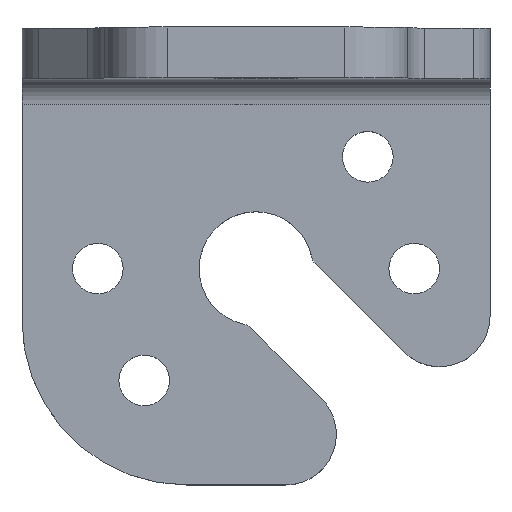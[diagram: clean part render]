
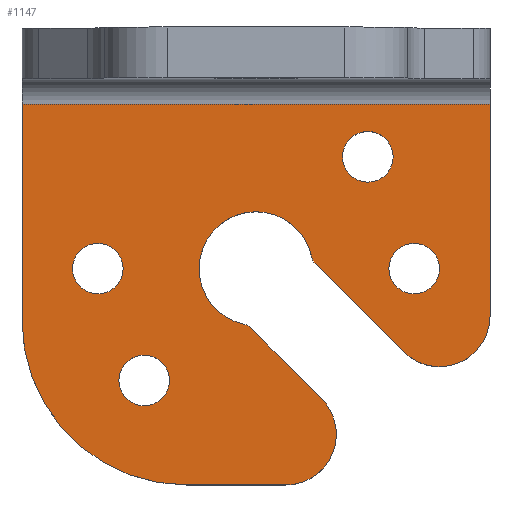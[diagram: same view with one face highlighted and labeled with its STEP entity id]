
A CAD part, top view. The second image highlights one B-rep face of the part: STEP entity #1147.
In plain terms, the highlighted planar face has unit normal (0, 0, 1).
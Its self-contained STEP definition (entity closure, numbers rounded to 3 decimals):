
#176=CARTESIAN_POINT('',(-12.5,0.,4.));
#177=DIRECTION('',(0.,0.,-1.));
#178=DIRECTION('',(1.,0.,0.));
#179=AXIS2_PLACEMENT_3D('',#176,#177,#178);
#184=CARTESIAN_POINT('',(-12.5,0.,4.));
#185=DIRECTION('',(0.,0.,-1.));
#186=DIRECTION('',(-1.,0.,0.));
#187=AXIS2_PLACEMENT_3D('',#184,#185,#186);
#192=CARTESIAN_POINT('',(8.839,8.839,4.));
#193=DIRECTION('',(0.,0.,-1.));
#194=DIRECTION('',(1.,0.,0.));
#195=AXIS2_PLACEMENT_3D('',#192,#193,#194);
#200=CARTESIAN_POINT('',(8.839,8.839,4.));
#201=DIRECTION('',(0.,0.,-1.));
#202=DIRECTION('',(-1.,0.,0.));
#203=AXIS2_PLACEMENT_3D('',#200,#201,#202);
#208=CARTESIAN_POINT('',(12.5,0.,4.));
#209=DIRECTION('',(0.,0.,-1.));
#210=DIRECTION('',(1.,0.,0.));
#211=AXIS2_PLACEMENT_3D('',#208,#209,#210);
#216=CARTESIAN_POINT('',(12.5,0.,4.));
#217=DIRECTION('',(0.,0.,-1.));
#218=DIRECTION('',(-1.,0.,0.));
#219=AXIS2_PLACEMENT_3D('',#216,#217,#218);
#224=CARTESIAN_POINT('',(-8.839,-8.839,4.));
#225=DIRECTION('',(0.,0.,-1.));
#226=DIRECTION('',(1.,0.,0.));
#227=AXIS2_PLACEMENT_3D('',#224,#225,#226);
#232=CARTESIAN_POINT('',(-8.839,-8.839,4.));
#233=DIRECTION('',(0.,0.,-1.));
#234=DIRECTION('',(-1.,0.,0.));
#235=AXIS2_PLACEMENT_3D('',#232,#233,#234);
#240=DIRECTION('',(1.,0.,0.));
#241=VECTOR('',#240,37.);
#242=CARTESIAN_POINT('',(-18.5,12.997,4.));
#243=LINE('',#242,#241);
#247=DIRECTION('',(0.,1.,0.));
#248=VECTOR('',#247,16.749);
#249=CARTESIAN_POINT('',(18.5,-3.752,4.));
#250=LINE('',#249,#248);
#254=CARTESIAN_POINT('',(14.5,-3.752,4.));
#255=DIRECTION('',(0.,0.,1.));
#256=DIRECTION('',(-0.707,-0.707,0.));
#257=AXIS2_PLACEMENT_3D('',#254,#255,#256);
#262=DIRECTION('',(0.707,-0.707,0.));
#263=VECTOR('',#262,9.89);
#264=CARTESIAN_POINT('',(4.678,0.412,4.));
#265=LINE('',#264,#263);
#269=CARTESIAN_POINT('',(5.385,1.119,4.));
#270=DIRECTION('',(0.,0.,1.));
#271=DIRECTION('',(-0.979,-0.203,0.));
#272=AXIS2_PLACEMENT_3D('',#269,#270,#271);
#277=CARTESIAN_POINT('',(0.,0.,4.));
#278=DIRECTION('',(0.,0.,-1.));
#279=DIRECTION('',(-0.204,-0.979,0.));
#280=AXIS2_PLACEMENT_3D('',#277,#278,#279);
#285=CARTESIAN_POINT('',(-1.121,-5.385,4.));
#286=DIRECTION('',(0.,0.,1.));
#287=DIRECTION('',(0.707,0.707,0.));
#288=AXIS2_PLACEMENT_3D('',#285,#286,#287);
#293=DIRECTION('',(-0.707,0.707,0.));
#294=VECTOR('',#293,7.908);
#295=CARTESIAN_POINT('',(5.178,-10.269,4.));
#296=LINE('',#295,#294);
#300=CARTESIAN_POINT('',(2.35,-13.098,4.));
#301=DIRECTION('',(0.,0.,1.));
#302=DIRECTION('',(0.,-1.,0.));
#303=AXIS2_PLACEMENT_3D('',#300,#301,#302);
#308=DIRECTION('',(1.,0.,0.));
#309=VECTOR('',#308,7.85);
#310=CARTESIAN_POINT('',(-5.5,-17.098,4.));
#311=LINE('',#310,#309);
#315=CARTESIAN_POINT('',(-5.5,-4.098,4.));
#316=DIRECTION('',(0.,0.,1.));
#317=DIRECTION('',(-1.,0.,0.));
#318=AXIS2_PLACEMENT_3D('',#315,#316,#317);
#323=DIRECTION('',(0.,-1.,0.));
#324=VECTOR('',#323,17.095);
#325=CARTESIAN_POINT('',(-18.5,12.997,4.));
#326=LINE('',#325,#324);
#894=CARTESIAN_POINT('',(-10.5,0.,4.));
#895=CARTESIAN_POINT('',(-14.5,0.,4.));
#896=VERTEX_POINT('',#894);
#897=VERTEX_POINT('',#895);
#898=CARTESIAN_POINT('',(10.839,8.839,4.));
#899=CARTESIAN_POINT('',(6.839,8.839,4.));
#900=VERTEX_POINT('',#898);
#901=VERTEX_POINT('',#899);
#902=CARTESIAN_POINT('',(14.5,0.,4.));
#903=CARTESIAN_POINT('',(10.5,0.,4.));
#904=VERTEX_POINT('',#902);
#905=VERTEX_POINT('',#903);
#906=CARTESIAN_POINT('',(-6.839,-8.839,4.));
#907=CARTESIAN_POINT('',(-10.839,-8.839,4.));
#908=VERTEX_POINT('',#906);
#909=VERTEX_POINT('',#907);
#910=CARTESIAN_POINT('',(-18.5,-4.098,4.));
#911=CARTESIAN_POINT('',(-5.5,-17.098,4.));
#912=VERTEX_POINT('',#910);
#913=VERTEX_POINT('',#911);
#914=CARTESIAN_POINT('',(2.35,-17.098,4.));
#915=VERTEX_POINT('',#914);
#916=CARTESIAN_POINT('',(5.178,-10.269,4.));
#917=VERTEX_POINT('',#916);
#918=CARTESIAN_POINT('',(-0.414,-4.677,4.));
#919=VERTEX_POINT('',#918);
#920=CARTESIAN_POINT('',(-0.917,-4.406,4.));
#921=VERTEX_POINT('',#920);
#922=CARTESIAN_POINT('',(4.406,0.916,4.));
#923=VERTEX_POINT('',#922);
#924=CARTESIAN_POINT('',(4.678,0.412,4.));
#925=VERTEX_POINT('',#924);
#926=CARTESIAN_POINT('',(11.672,-6.58,4.));
#927=VERTEX_POINT('',#926);
#928=CARTESIAN_POINT('',(18.5,-3.752,4.));
#929=VERTEX_POINT('',#928);
#994=CARTESIAN_POINT('',(-18.5,12.997,4.));
#995=CARTESIAN_POINT('',(18.5,12.997,4.));
#996=VERTEX_POINT('',#994);
#997=VERTEX_POINT('',#995);
#1094=CARTESIAN_POINT('',(0.,0.,4.));
#1095=DIRECTION('',(0.,0.,1.));
#1096=DIRECTION('',(1.,0.,0.));
#1097=AXIS2_PLACEMENT_3D('',#1094,#1095,#1096);
#1098=PLANE('',#1097);
#1100=ORIENTED_EDGE('',*,*,#1099,.T.);
#1102=ORIENTED_EDGE('',*,*,#1101,.F.);
#1104=ORIENTED_EDGE('',*,*,#1103,.F.);
#1106=ORIENTED_EDGE('',*,*,#1105,.F.);
#1108=ORIENTED_EDGE('',*,*,#1107,.F.);
#1110=ORIENTED_EDGE('',*,*,#1109,.F.);
#1112=ORIENTED_EDGE('',*,*,#1111,.F.);
#1114=ORIENTED_EDGE('',*,*,#1113,.F.);
#1116=ORIENTED_EDGE('',*,*,#1115,.F.);
#1118=ORIENTED_EDGE('',*,*,#1117,.F.);
#1120=ORIENTED_EDGE('',*,*,#1119,.F.);
#1122=ORIENTED_EDGE('',*,*,#1121,.F.);
#1123=EDGE_LOOP('',(#1100,#1102,#1104,#1106,#1108,#1110,#1112,#1114,#1116,#1118,
#1120,#1122));
#1124=FACE_OUTER_BOUND('',#1123,.F.);
#1126=ORIENTED_EDGE('',*,*,#1125,.F.);
#1128=ORIENTED_EDGE('',*,*,#1127,.F.);
#1129=EDGE_LOOP('',(#1126,#1128));
#1130=FACE_BOUND('',#1129,.F.);
#1132=ORIENTED_EDGE('',*,*,#1131,.F.);
#1134=ORIENTED_EDGE('',*,*,#1133,.F.);
#1135=EDGE_LOOP('',(#1132,#1134));
#1136=FACE_BOUND('',#1135,.F.);
#1138=ORIENTED_EDGE('',*,*,#1137,.F.);
#1140=ORIENTED_EDGE('',*,*,#1139,.F.);
#1141=EDGE_LOOP('',(#1138,#1140));
#1142=FACE_BOUND('',#1141,.F.);
#1143=ORIENTED_EDGE('',*,*,#1074,.F.);
#1144=ORIENTED_EDGE('',*,*,#1088,.F.);
#1145=EDGE_LOOP('',(#1143,#1144));
#1146=FACE_BOUND('',#1145,.F.);
#180=CIRCLE('',#179,2.);
#188=CIRCLE('',#187,2.);
#196=CIRCLE('',#195,2.);
#204=CIRCLE('',#203,2.);
#212=CIRCLE('',#211,2.);
#220=CIRCLE('',#219,2.);
#228=CIRCLE('',#227,2.);
#236=CIRCLE('',#235,2.);
#258=CIRCLE('',#257,4.);
#273=CIRCLE('',#272,1.);
#281=CIRCLE('',#280,4.5);
#289=CIRCLE('',#288,1.);
#304=CIRCLE('',#303,4.);
#319=CIRCLE('',#318,13.);
#1074=EDGE_CURVE('',#896,#897,#180,.T.);
#1088=EDGE_CURVE('',#897,#896,#188,.T.);
#1099=EDGE_CURVE('',#996,#997,#243,.T.);
#1101=EDGE_CURVE('',#929,#997,#250,.T.);
#1103=EDGE_CURVE('',#927,#929,#258,.T.);
#1105=EDGE_CURVE('',#925,#927,#265,.T.);
#1107=EDGE_CURVE('',#923,#925,#273,.T.);
#1109=EDGE_CURVE('',#921,#923,#281,.T.);
#1111=EDGE_CURVE('',#919,#921,#289,.T.);
#1113=EDGE_CURVE('',#917,#919,#296,.T.);
#1115=EDGE_CURVE('',#915,#917,#304,.T.);
#1117=EDGE_CURVE('',#913,#915,#311,.T.);
#1119=EDGE_CURVE('',#912,#913,#319,.T.);
#1121=EDGE_CURVE('',#996,#912,#326,.T.);
#1125=EDGE_CURVE('',#900,#901,#196,.T.);
#1127=EDGE_CURVE('',#901,#900,#204,.T.);
#1131=EDGE_CURVE('',#904,#905,#212,.T.);
#1133=EDGE_CURVE('',#905,#904,#220,.T.);
#1137=EDGE_CURVE('',#908,#909,#228,.T.);
#1139=EDGE_CURVE('',#909,#908,#236,.T.);
#1147=ADVANCED_FACE('',(#1124,#1130,#1136,#1142,#1146),#1098,.T.);
